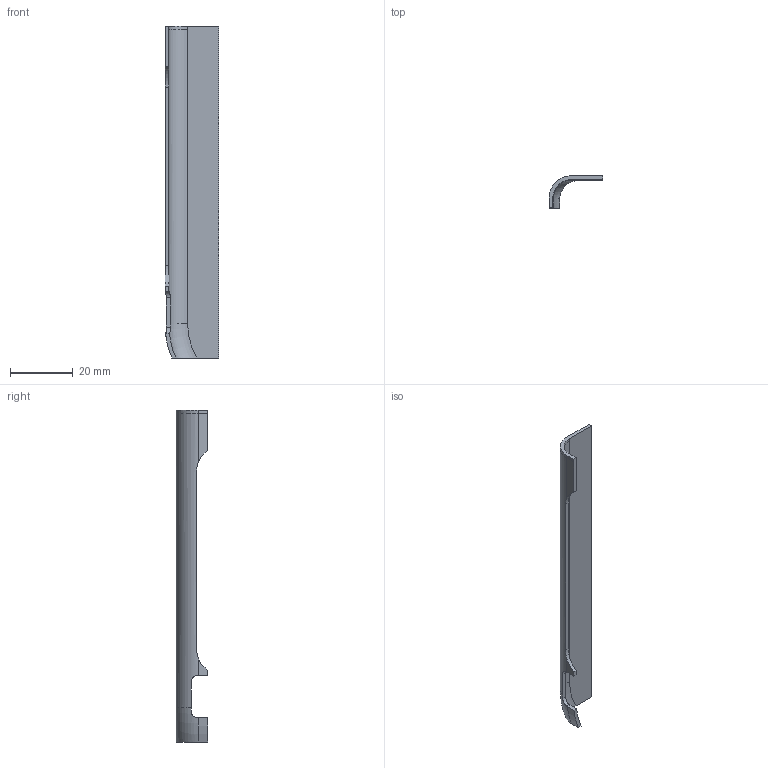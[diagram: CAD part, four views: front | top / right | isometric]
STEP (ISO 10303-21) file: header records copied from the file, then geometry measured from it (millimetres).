
FILE_DESCRIPTION(('Open CASCADE Model'),'2;1');
FILE_NAME('rear_grip_skin_finegrain_cream_INSCRIBED', '2026-09-06T11:35:11',('Author'),('Open CASCADE'), 'Open CASCADE STEP processor 7.8','build123d','Unknown');
FILE_SCHEMA(('AUTOMOTIVE_DESIGN { 1 0 10303 214 1 1 1 1 }'));
Length unit declared in the file: millimetre
Products named in the file (1): rear_grip_skin_finegrain_cream_INSCRIBED
Bounding box: 17.2 x 10.2 x 106 mm (x, y, z)
Volume: 2593.9 mm3; surface area: 4647.1 mm2
Topology: 1 solids, 1 shells, 30 faces, 82 edges, 54 vertices
Faces by surface type: plane 16, cylinder 10, torus 4
Entity records: 2602 total; most frequent: CARTESIAN_POINT 1082, DIRECTION 242, ORIENTED_EDGE 164, PCURVE 164, DEFINITIONAL_REPRESENTATION 164, LINE 124, VECTOR 124, EDGE_CURVE 82
